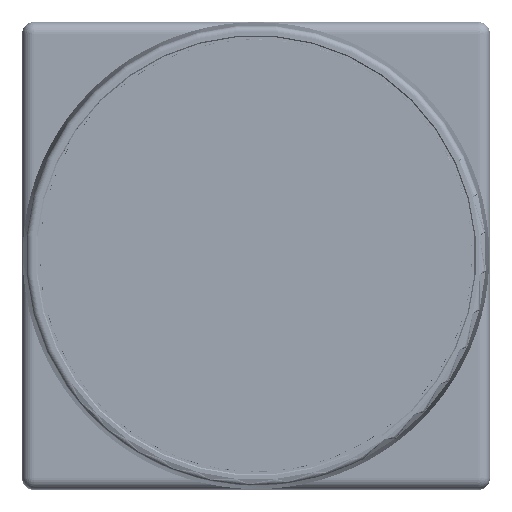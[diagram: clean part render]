
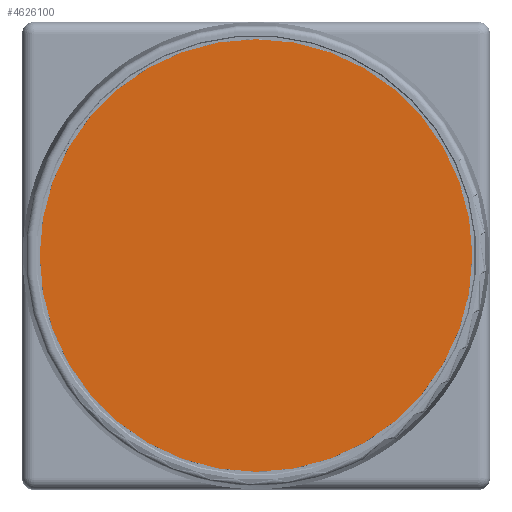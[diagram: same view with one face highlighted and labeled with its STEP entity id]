
A CAD part, top view. The second image highlights one B-rep face of the part: STEP entity #4626100.
In plain terms, the highlighted planar face has unit normal (0, 0, 1).
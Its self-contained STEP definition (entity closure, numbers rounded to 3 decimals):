
#4625580=CARTESIAN_POINT('',(-452.125,-119.,
-19.55));
#4625590=VERTEX_POINT('',#4625580);
#4625750=CARTESIAN_POINT('',(-526.125,-119.,
-19.55));
#4625760=VERTEX_POINT('',#4625750);
#4625790=CARTESIAN_POINT('',(-489.125,-119.,
-19.55));
#4625800=DIRECTION('',(0.,0.,1.));
#4625810=DIRECTION('',(-1.,0.,0.));
#4625820=AXIS2_PLACEMENT_3D('',#4625790,#4625800,#4625810);
#4625830=CIRCLE('',#4625820,37.);
#4625840=EDGE_CURVE('',#4625760,#4625590,#4625830,.T.);
#4626000=CARTESIAN_POINT('',(-489.021,-152.675,
-19.55));
#4626010=DIRECTION('',(0.,0.,1.));
#4626020=DIRECTION('',(-1.,0.,0.));
#4626030=AXIS2_PLACEMENT_3D('',#4626000,#4626010,#4626020);
#4626040=PLANE('',#4626030);
#4626050=EDGE_CURVE('',#4625590,#4625760,#4625830,.T.);
#4626060=ORIENTED_EDGE('',*,*,#4626050,.T.);
#4626070=ORIENTED_EDGE('',*,*,#4625840,.T.);
#4626080=EDGE_LOOP('',(#4626070,#4626060));
#4626090=FACE_OUTER_BOUND('',#4626080,.T.);
#4626100=ADVANCED_FACE('',(#4626090),#4626040,.T.);
